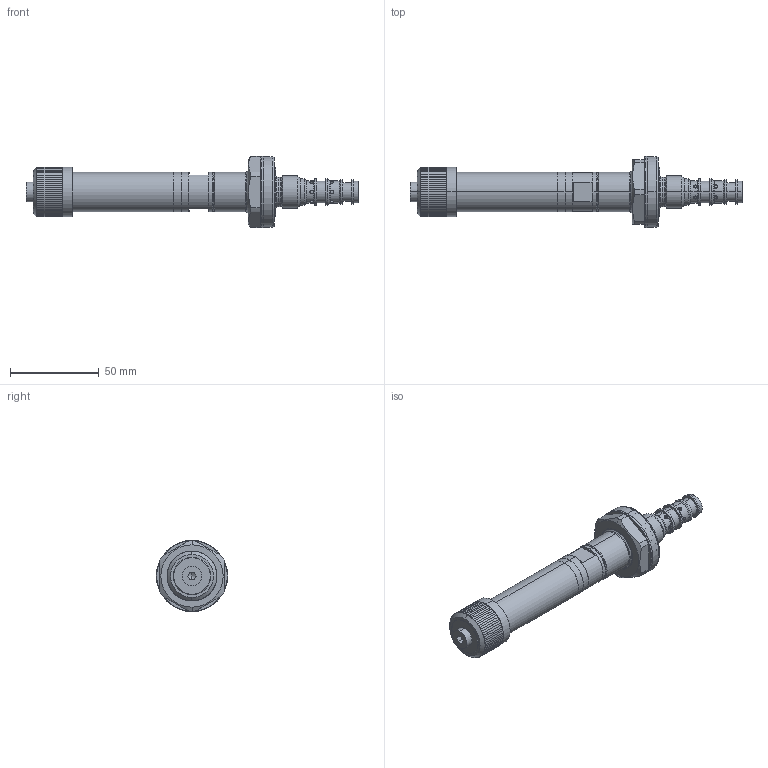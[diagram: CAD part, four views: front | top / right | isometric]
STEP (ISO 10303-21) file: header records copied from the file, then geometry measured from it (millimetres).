
FILE_DESCRIPTION (( 'STEP AP214' ), '1' );
FILE_NAME ('SDZPM18-FG.STEP', '2017-03-01T14:33:28', ( '' ), ( '' ), 'SwSTEP 2.0', 'SolidWorks 2016', '' );
FILE_SCHEMA (( 'AUTOMOTIVE_DESIGN' ));
Length unit declared in the file: millimetre
Products named in the file (1): SDZPM18-FG
Bounding box: 186.55 x 40 x 40 mm (x, y, z)
Volume: 75837.1 mm3; surface area: 18016.1 mm2
Topology: 1 solids, 1 shells, 546 faces, 1431 edges, 922 vertices
Faces by surface type: plane 279, cylinder 146, cone 49, torus 48, bspline 24
Entity records: 24989 total; most frequent: CARTESIAN_POINT 5826, ORIENTED_EDGE 2858, DIRECTION 2668, EDGE_CURVE 1429, AXIS2_PLACEMENT_3D 948, VERTEX_POINT 922, VECTOR 772, LINE 772
